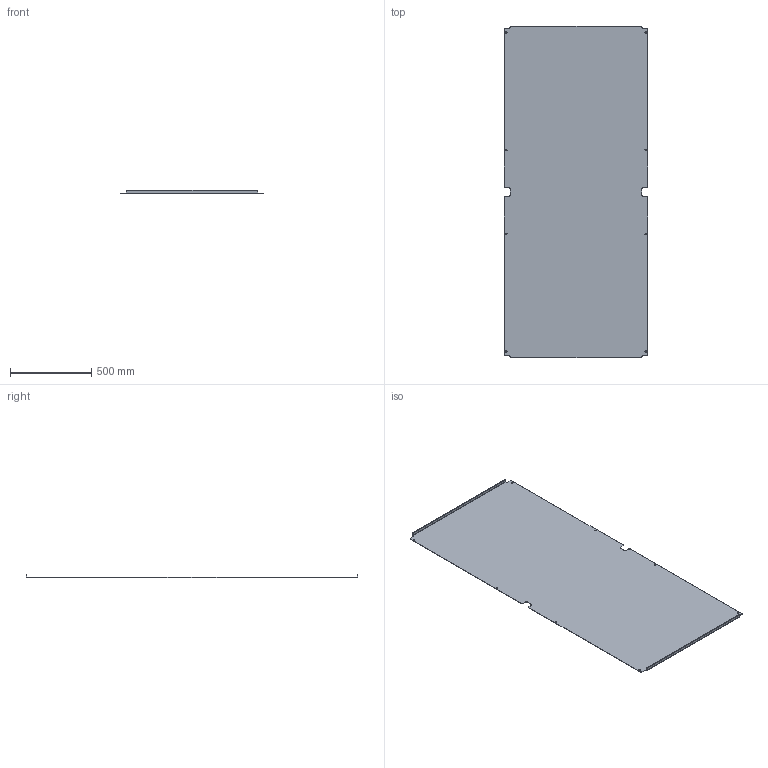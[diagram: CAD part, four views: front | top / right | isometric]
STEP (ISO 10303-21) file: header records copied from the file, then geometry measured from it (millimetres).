
FILE_DESCRIPTION (( 'STEP AP203' ), '1' );
FILE_NAME ('1000x2200_piastra supplementare_EUPS_Enux.STEP', '2015-03-03T14:48:36', ( 'Admin' ), ( '' ), 'SwSTEP 2.0', 'SolidWorks 2014', '' );
FILE_SCHEMA (( 'CONFIG_CONTROL_DESIGN' ));
Length unit declared in the file: millimetre
Products named in the file (1): 1000x2200_piastra supplementare_EUPS_Enux
Bounding box: 880 x 2035 x 20 mm (x, y, z)
Volume: 4530725.4 mm3; surface area: 3639569.7 mm2
Topology: 1 solids, 1 shells, 90 faces, 264 edges, 176 vertices
Faces by surface type: cylinder 48, plane 42
Entity records: 3133 total; most frequent: DIRECTION 542, CARTESIAN_POINT 531, ORIENTED_EDGE 528, EDGE_CURVE 264, AXIS2_PLACEMENT_3D 187, VERTEX_POINT 176, LINE 168, VECTOR 168
